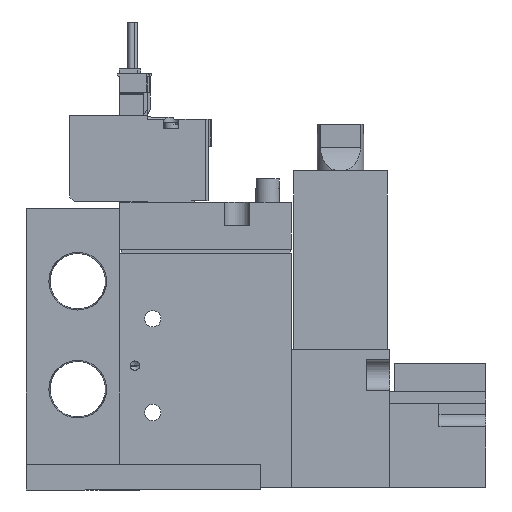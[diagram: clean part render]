
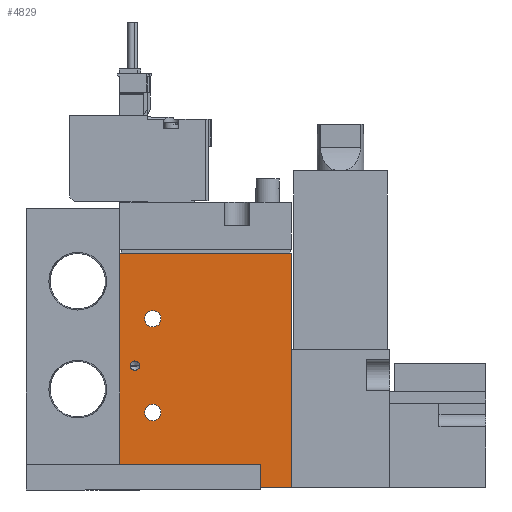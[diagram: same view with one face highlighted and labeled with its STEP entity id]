
A CAD part, left-side view. The second image highlights one B-rep face of the part: STEP entity #4829.
In plain terms, the highlighted planar face has unit normal (-1, 0, 0) as drawn and (1, 0, 0) by its records, which use the part's own axes.
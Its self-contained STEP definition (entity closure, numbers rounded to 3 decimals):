
#4829=ADVANCED_FACE('',(#7577,#7578,#7579,#7580),#7581,.F.);
#7577=FACE_BOUND('',#12559,.T.);
#7578=FACE_BOUND('',#12560,.T.);
#7579=FACE_BOUND('',#12561,.T.);
#7580=FACE_OUTER_BOUND('',#12562,.T.);
#7581=PLANE('',#12563);
#12559=EDGE_LOOP('',(#19445));
#12560=EDGE_LOOP('',(#19446));
#12561=EDGE_LOOP('',(#19447));
#12562=EDGE_LOOP('',(#19448,#19449,#19450,#19451));
#12563=AXIS2_PLACEMENT_3D('',#19452,#19453,#19454);
#19445=ORIENTED_EDGE('',*,*,#34927,.F.);
#19446=ORIENTED_EDGE('',*,*,#34928,.T.);
#19447=ORIENTED_EDGE('',*,*,#34926,.T.);
#19448=ORIENTED_EDGE('',*,*,#34929,.T.);
#19449=ORIENTED_EDGE('',*,*,#34930,.F.);
#19450=ORIENTED_EDGE('',*,*,#34931,.F.);
#19451=ORIENTED_EDGE('',*,*,#34932,.T.);
#19452=CARTESIAN_POINT('',(8.5,-19.444,50.0));
#19453=DIRECTION('',(-1.0,0.0,0.0));
#19454=DIRECTION('',(0.0,0.0,1.0));
#34926=EDGE_CURVE('',#40947,#40947,#40948,.T.);
#34927=EDGE_CURVE('',#40949,#40949,#40950,.T.);
#34928=EDGE_CURVE('',#40951,#40951,#40952,.T.);
#34929=EDGE_CURVE('',#40953,#40954,#40955,.T.);
#34930=EDGE_CURVE('',#40956,#40954,#40957,.T.);
#34931=EDGE_CURVE('',#40958,#40956,#40959,.T.);
#34932=EDGE_CURVE('',#40958,#40953,#40960,.T.);
#40947=VERTEX_POINT('',#51084);
#40948=CIRCLE('',#51085,1.75);
#40949=VERTEX_POINT('',#51086);
#40950=CIRCLE('',#51087,1.0);
#40951=VERTEX_POINT('',#51088);
#40952=CIRCLE('',#51089,1.75);
#40953=VERTEX_POINT('',#51090);
#40954=VERTEX_POINT('',#51091);
#40955=LINE('',#51092,#51093);
#40956=VERTEX_POINT('',#51094);
#40957=LINE('',#51095,#51096);
#40958=VERTEX_POINT('',#51097);
#40959=LINE('',#51098,#51099);
#40960=LINE('',#51100,#51101);
#51084=CARTESIAN_POINT('',(8.5,-10.694,16.0));
#51085=AXIS2_PLACEMENT_3D('',#63907,#63908,#63909);
#51086=CARTESIAN_POINT('',(8.5,-17.244,26.0));
#51087=AXIS2_PLACEMENT_3D('',#63910,#63911,#63912);
#51088=CARTESIAN_POINT('',(8.5,-10.694,36.0));
#51089=AXIS2_PLACEMENT_3D('',#63913,#63914,#63915);
#51090=CARTESIAN_POINT('',(8.5,-19.444,0.0));
#51091=CARTESIAN_POINT('',(8.5,17.056,0.0));
#51092=CARTESIAN_POINT('',(8.5,-19.444,0.0));
#51093=VECTOR('',#63916,1.0);
#51094=CARTESIAN_POINT('',(8.5,17.056,50.0));
#51095=CARTESIAN_POINT('',(8.5,17.056,50.0));
#51096=VECTOR('',#63917,1.0);
#51097=CARTESIAN_POINT('',(8.5,-19.444,50.0));
#51098=CARTESIAN_POINT('',(8.5,-19.444,50.0));
#51099=VECTOR('',#63918,1.0);
#51100=CARTESIAN_POINT('',(8.5,-19.444,50.0));
#51101=VECTOR('',#63919,1.0);
#63907=CARTESIAN_POINT('',(8.5,-12.444,16.0));
#63908=DIRECTION('',(-1.0,0.0,0.0));
#63909=DIRECTION('',(0.0,1.0,0.0));
#63910=CARTESIAN_POINT('',(8.5,-16.244,26.0));
#63911=DIRECTION('',(1.0,0.,0.0));
#63912=DIRECTION('',(0.,-1.0,0.0));
#63913=CARTESIAN_POINT('',(8.5,-12.444,36.0));
#63914=DIRECTION('',(-1.0,0.0,0.0));
#63915=DIRECTION('',(0.0,1.0,0.0));
#63916=DIRECTION('',(0.0,1.0,0.0));
#63917=DIRECTION('',(0.0,0.0,-1.0));
#63918=DIRECTION('',(0.0,1.0,0.0));
#63919=DIRECTION('',(0.0,0.0,-1.0));
